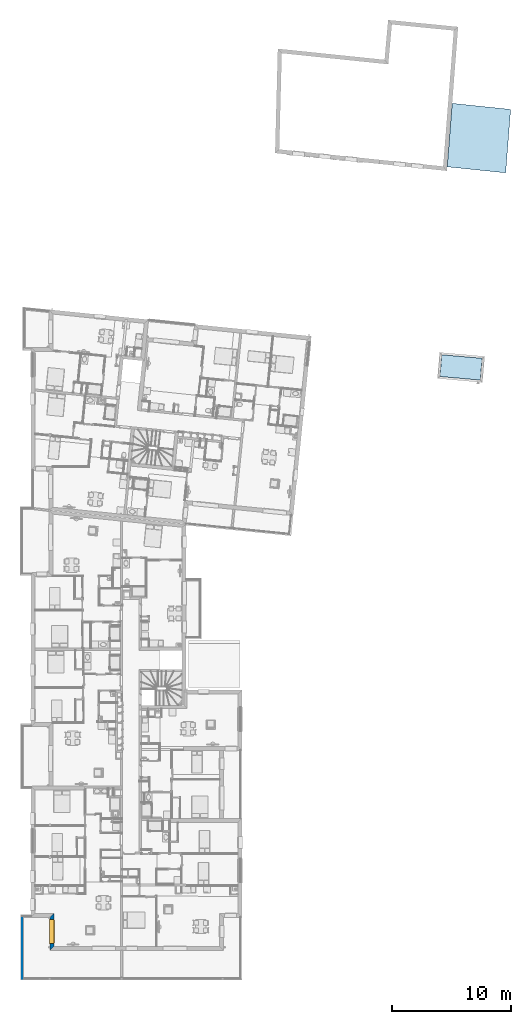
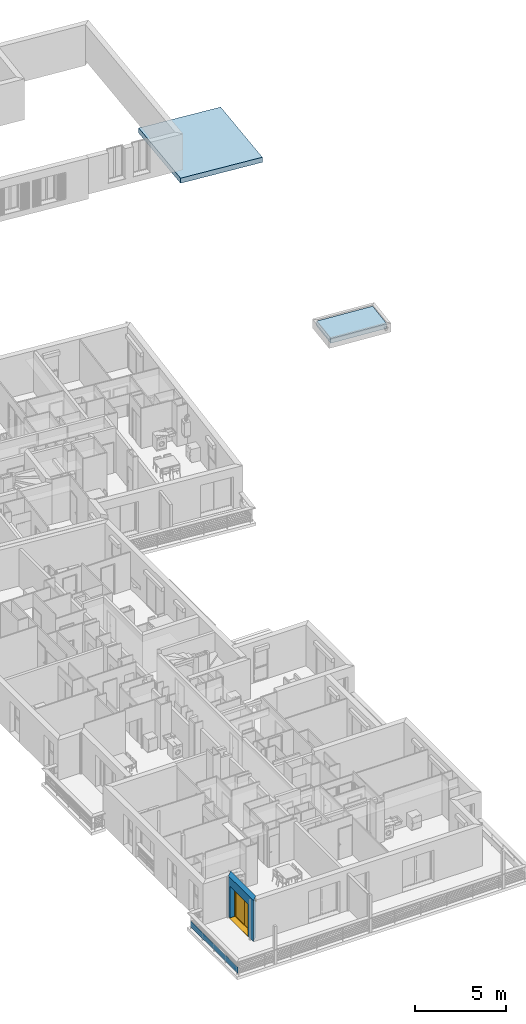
# One storey, part 3 of 164: 2 slabs, 2 walls, 1 window, 1 opening.
"""IFC2X3 building model written with IfcOpenShell, lengths in millimetres."""

from ifc_helpers import new_model, entity, si_unit, converted_unit, derived_unit, money_unit, direction, frame, origin_with_axes, place, context, subcontext, project, spatial, polyline, outline, extrude, open_shell, faceted_brep, surface_model, source, transform, mapped, material, layer, layer_set, layer_usage, type_object, element, fill, save


model = new_model("IFC2X3")

# Units and contexts
model_context = context("Model", 3, precision=0.01, world=origin_with_axes(), true_north=direction((0.0, 1.0)))
body_context = subcontext(model_context, "Body", "Model", "MODEL_VIEW")
ifc_project = project(units=[si_unit("LENGTHUNIT", "METRE", prefix="MILLI"), si_unit("AREAUNIT", "SQUARE_METRE"), si_unit("VOLUMEUNIT", "CUBIC_METRE"), converted_unit("PLANEANGLEUNIT", "DEGREE", entity("IfcPlaneAngleMeasure", 0.0174532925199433), si_unit("PLANEANGLEUNIT", "RADIAN"), dimensions=[0, 0, 0, 0, 0, 0, 0]), money_unit("USD"), converted_unit("TIMEUNIT", "Year", entity("IfcTimeMeasure", 31557600.0), si_unit("TIMEUNIT", "SECOND"), dimensions=[0, 0, 1, 0, 0, 0, 0]), si_unit("MASSUNIT", "GRAM", prefix="KILO"), si_unit("THERMODYNAMICTEMPERATUREUNIT", "DEGREE_CELSIUS"), si_unit("LUMINOUSINTENSITYUNIT", "LUMEN"), si_unit("ENERGYUNIT", "JOULE", prefix="MEGA"), derived_unit("THERMALCONDUCTANCEUNIT", [(si_unit("POWERUNIT", "WATT"), 1), (si_unit("LENGTHUNIT", "METRE"), -1), (si_unit("THERMODYNAMICTEMPERATUREUNIT", "KELVIN"), -1)]), derived_unit("SPECIFICHEATCAPACITYUNIT", [(si_unit("ENERGYUNIT", "JOULE"), 1), (si_unit("MASSUNIT", "GRAM", prefix="KILO"), -1), (si_unit("THERMODYNAMICTEMPERATUREUNIT", "KELVIN"), -1)]), derived_unit("MASSDENSITYUNIT", [(si_unit("MASSUNIT", "GRAM", prefix="KILO"), 1), (si_unit("VOLUMEUNIT", "CUBIC_METRE"), -1)])], contexts=[model_context])

# Site, building, storey
site_placement = place(None, origin_with_axes())
site = spatial("IfcSite", under=ifc_project, at=site_placement, Name="Site", CompositionType="ELEMENT")
building_placement = place(site_placement, origin_with_axes())
building = spatial("IfcBuilding", under=site, at=building_placement, Name="Bâtiment", CompositionType="ELEMENT")
storey_placement = place(building_placement, frame((0.0, 0.0, 5750.0), z_axis=(0.0, 0.0, 1.0), x_axis=(1.0, 0.0, 0.0)))
storey = spatial("IfcBuildingStorey", under=building, at=storey_placement, Name="Etage1", CompositionType="ELEMENT", Elevation=5750.0)

# Slabs
ifc_material_1 = material(Name="100 % 288701002")
ifc_layer_1 = layer(ifc_material_1, 40.0, ventilated="UNKNOWN")
ifc_material_2 = material(Name="AS_EMPTY 288701002")
ifc_layer_2 = layer(ifc_material_2, 100.0, ventilated="UNKNOWN")
ifc_material_3 = material(Name="Parpaing 288701002")
ifc_layer_3 = layer(ifc_material_3, 200.0, ventilated="UNKNOWN")
ifc_layer_set_1 = layer_set([ifc_layer_1, ifc_layer_2, ifc_layer_3], Name="dalle 20+plots")
ifc_layer_usage_1 = layer_usage(ifc_layer_set_1, "AXIS3", "NEGATIVE", 340.0)
slab_type_1 = type_object("IfcSlabType", Name="dalle 20+plots 340", PredefinedType="FLOOR")
slab_1_placement = place(storey_placement, frame((2252006.94202775, -586668.0757943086, -200.0000000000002), z_axis=(0.0, 0.0, 1.0), x_axis=(1.0, 0.0, 0.0)))
element("IfcSlab", 1, at=slab_1_placement, inside=storey, type_object=slab_type_1, material=ifc_layer_usage_1, Name="Dalle-050", PredefinedType="FLOOR", context=body_context, shape_type="SweptSolid", body=[
    extrude(outline(polyline([(0.0, 0.0), (-417.1851767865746, -5334.817780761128), (4498.620771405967, -5844.006273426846), (4915.491701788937, -511.5278434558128), (0.0, 0.0)])), frame((0.0, 0.0, -340.0), z_axis=(0.0, 0.0, 1.0), x_axis=(1.0, 0.0, 0.0)), (0.0, 0.0, 1.0), 340.0),
])
ifc_layer_4 = layer(ifc_material_3, 230.0, ventilated="UNKNOWN")
ifc_material_4 = material(Name="Isolation toiture terrasse 288701002")
ifc_layer_5 = layer(ifc_material_4, 100.0, ventilated="UNKNOWN")
ifc_layer_set_2 = layer_set([ifc_layer_4, ifc_layer_5], Name="dalle 23+ isolant sousface10  0817885410")
ifc_layer_usage_2 = layer_usage(ifc_layer_set_2, "AXIS3", "NEGATIVE", 330.0)
slab_type_2 = type_object("IfcSlabType", Name="dalle 23+ isolant sousface10  0817885410 330", PredefinedType="FLOOR")
slab_2_placement = place(storey_placement, frame((2251138.881755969, -607787.6207350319, -86.40396873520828), z_axis=(0.0, 0.0, 1.0), x_axis=(1.0, 0.0, 0.0)))
element("IfcSlab", 2, at=slab_2_placement, inside=storey, type_object=slab_type_2, material=ifc_layer_usage_2, Name="Dalle-030", PredefinedType="FLOOR", context=body_context, shape_type="SweptSolid", body=[
    extrude(outline(polyline([(0.0, 0.0), (-160.9854818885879, -1830.086737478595), (3228.15602220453, -2128.216092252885), (3389.141504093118, -298.1293547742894), (0.0, 0.0)])), frame((0.0, 0.0, -330.0), z_axis=(0.0, 0.0, 1.0), x_axis=(1.0, 0.0, 0.0)), (0.0, 0.0, 1.0), 330.0),
])

# Wall
ifc_material_5 = material(Name="MANQUANT")
ifc_layer_6 = layer(ifc_material_5, 20.0, ventilated="UNKNOWN")
ifc_layer_set_3 = layer_set([ifc_layer_6], Name="MANQUANT 20")
ifc_layer_usage_3 = layer_usage(ifc_layer_set_3, "AXIS2", "NEGATIVE", 20.0)
wall_type_1 = type_object("IfcWallType", Name="MANQUANT 20", PredefinedType="NOTDEFINED")
wall_1_placement = place(storey_placement, frame((2215882.625413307, -654937.0120138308, 99.99999999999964), z_axis=(0.0, 0.0, 1.0), x_axis=(-1.324341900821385e-06, -0.999999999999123, 0.0)))
element("IfcWallStandardCase", 3, at=wall_1_placement, inside=storey, type_object=wall_type_1, material=ifc_layer_usage_3, Name="Mur-150", context=body_context, shape_type="SweptSolid", body=[
    extrude(outline(polyline([(0.0, 0.0), (5244.511613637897, 0.0), (5224.511587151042, 20.0000000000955), (19.99997351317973, 20.0000000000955), (0.0, 0.0)])), origin_with_axes(), (0.0, 0.0, 1.0), 400.0),
])

# Wall, opening, window
ifc_material_6 = material(Name="Parpaing 312445824")
ifc_layer_7 = layer(ifc_material_6, 180.0, ventilated="UNKNOWN")
ifc_material_7 = material(Name="Isolant styromousse 301821074")
ifc_layer_8 = layer(ifc_material_7, 160.0, ventilated="UNKNOWN")
ifc_layer_set_4 = layer_set([ifc_layer_7, ifc_layer_8], Name="isol int 18+16 0018356637")
ifc_layer_usage_4 = layer_usage(ifc_layer_set_4, "AXIS2", "POSITIVE", 0.0)
wall_type_2 = type_object("IfcWallType", Name="isol int 18+16 0018356637 340", PredefinedType="NOTDEFINED")
wall_2_placement = place(storey_placement, frame((2218234.233338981, -655041.4677782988, 0.0), z_axis=(0.0, 0.0, 1.0), x_axis=(0.0, -1.0, 0.0)))
wall_2 = element("IfcWallStandardCase", 4, at=wall_2_placement, inside=storey, type_object=wall_type_2, material=ifc_layer_usage_4, Name="Mur-143", context=body_context, shape_type="SweptSolid", body=[
    extrude(outline(polyline([(0.0, 0.0), (2776.855298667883, 0.0), (2436.855298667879, 340.0000000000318), (-340.0000000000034, 340.0000000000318), (0.0, 0.0)])), origin_with_axes(), (0.0, 0.0, 1.0), 2750.0),
])
opening_placement = place(wall_2_placement, frame((1191.264102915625, 1.13686837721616e-10, 0.0), z_axis=(0.0, 0.0, 1.0), x_axis=(1.0, 0.0, 0.0)))
opening = element("IfcOpeningElement", 5, at=opening_placement, cuts=wall_2, Name="Fen-207", context=body_context, shape_type="Brep", body=[
    faceted_brep([(-1000.0, 290.0000000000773, 2150.0), (-1000.0, 341.0000000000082, 2150.0), (-1000.0, 341.0000000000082, 0.0), (-1000.0, 290.0000000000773, 0.0), (-1000.0, 280.0000000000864, 2150.0), (-1000.0, 280.0000000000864, 2400.0), (-1000.0, 530.0000000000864, 2400.0), (-1000.0, 530.0000000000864, 2150.0), (1000.0, 341.0000000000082, 2150.0), (1000.0, 341.0000000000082, 0.0), (1000.0, 290.0000000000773, 0.0), (1000.0, -0.9999999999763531, 0.0), (-1000.0, -0.9999999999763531, 0.0), (-1000.0, -0.9999999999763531, 2150.0), (1000.0, 280.0000000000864, 2150.0), (1000.0, 280.0000000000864, 2400.0), (1000.0, 530.0000000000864, 2400.0), (1000.0, 530.0000000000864, 2150.0), (1000.0, 290.0000000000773, 2150.0), (1000.0, -0.9999999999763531, 2150.0)], [[[0, 1, 2, 3]], [[1, 0, 4, 5, 6, 7]], [[1, 8, 9, 2]], [[10, 11, 12, 3, 2, 9]], [[4, 0, 3, 12, 13]], [[4, 14, 15, 5]], [[6, 5, 15, 16]], [[7, 6, 16, 17]], [[8, 1, 7, 17]], [[8, 18, 10, 9]], [[18, 14, 19, 11, 10]], [[13, 12, 11, 19]], [[14, 4, 13, 19]], [[18, 8, 17, 16, 15, 14]]]),
])
window_style = type_object("IfcWindowStyle", Name="Fenêtre châssis double variable 27", ConstructionType="NOTDEFINED", OperationType="DOUBLE_PANEL_VERTICAL", ParameterTakesPrecedence=False, Sizeable=False)
shared_shape = source(origin_with_axes(), body_context, "Body", "SurfaceModel", [
    surface_model("IfcShellBasedSurfaceModel", [(-1000.0, -51.00000000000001, 40.00000000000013), (1000.0, -51.00000000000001, 40.0), (1000.0, -51.00000000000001, 50.0), (-1000.0, -51.00000000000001, 50.00000000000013), (-1030.0, -369.9999999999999, 28.96551724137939), (1030.0, -369.9999999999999, 28.96551724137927), (1030.0, -339.9999999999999, 30.00324289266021), (1000.0, -339.9999999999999, 30.00324289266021), (-1000.0, -339.9999999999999, 30.00324289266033), (-1030.0, -339.9999999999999, 30.00324289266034), (-1030.0, -369.9999999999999, 8.965517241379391), (1030.0, -369.9999999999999, 8.965517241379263), (-1030.0, -359.9999999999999, 18.96551724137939), (1030.0, -359.9999999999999, 18.96551724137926)], [open_shell([[[0, 1, 2, 3]], [[4, 5, 6, 7, 1, 0, 8, 9]], [[10, 11, 5, 4]], [[12, 13, 11, 10]]])]),
    faceted_brep([(1000.0, -60.00000000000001, 2400.0), (1000.0, 190.0, 2400.0), (997.0, 190.0, 2400.0), (997.0, -60.00000000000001, 2400.0), (1000.0, -60.00000000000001, 2150.0), (1000.0, 190.0, 2150.0), (997.0, 190.0, 2150.0), (997.0, -60.00000000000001, 2150.0)], [[[0, 1, 2, 3]], [[0, 4, 5, 1]], [[1, 5, 6, 2]], [[3, 2, 6, 7]], [[4, 0, 3, 7]], [[5, 4, 7, 6]]]),
    faceted_brep([(-997.0000000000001, -59.99999999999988, 2400.0), (-997.0000000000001, 190.0000000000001, 2400.0), (-1000.0, 190.0000000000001, 2400.0), (-1000.0, -59.99999999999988, 2400.0), (-997.0000000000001, -59.99999999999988, 2150.0), (-997.0000000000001, 190.0000000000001, 2150.0), (-1000.0, 190.0000000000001, 2150.0), (-1000.0, -59.99999999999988, 2150.0)], [[[0, 1, 2, 3]], [[0, 4, 5, 1]], [[1, 5, 6, 2]], [[3, 2, 6, 7]], [[4, 0, 3, 7]], [[5, 4, 7, 6]]]),
    faceted_brep([(997.0, -60.0, 2150.0), (997.0, -60.0, 2400.0), (-997.0, -59.99999999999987, 2400.0), (-997.0, -59.99999999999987, 2150.0), (997.0, -56.99999999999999, 2150.0), (997.0, -56.99999999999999, 2397.0), (997.0, 187.0, 2397.0), (997.0, 187.0, 2153.0), (997.0, -37.99999999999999, 2153.0), (997.0, -37.99999999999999, 2150.0), (997.0, 190.0, 2150.0), (997.0, 190.0, 2400.0), (-997.0, 190.0000000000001, 2400.0), (-997.0, 190.0000000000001, 2150.0), (-997.0, -37.99999999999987, 2150.0), (-997.0, -37.99999999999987, 2153.0), (-997.0, 187.0000000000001, 2153.0), (-997.0, 187.0000000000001, 2397.0), (-997.0, -56.99999999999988, 2397.0), (-997.0, -56.99999999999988, 2150.0)], [[[0, 1, 2, 3]], [[0, 4, 5, 6, 7, 8, 9, 10, 11, 1]], [[1, 11, 12, 2]], [[3, 2, 12, 13, 14, 15, 16, 17, 18, 19]], [[4, 0, 3, 19]], [[5, 4, 19, 18]], [[6, 5, 18, 17]], [[7, 6, 17, 16]], [[8, 7, 16, 15]], [[9, 8, 15, 14]], [[10, 9, 14, 13]], [[11, 10, 13, 12]]]),
    faceted_brep([(994.0, -40.37442957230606, 2256.419644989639), (994.0, -35.54711042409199, 2238.403844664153), (994.0, -27.66471820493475, 2221.5), (994.0, -16.9667554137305, 2206.22172576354), (994.0, -3.778274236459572, 2193.033244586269), (994.0, 11.50000000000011, 2182.335281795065), (994.0, 28.40384466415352, 2174.452889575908), (994.0, 46.4196449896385, 2169.625570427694), (994.0, 65.00000000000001, 2168.0), (994.0, 83.58035501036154, 2169.625570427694), (994.0, 101.5961553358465, 2174.452889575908), (994.0, 118.4999999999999, 2182.335281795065), (994.0, 133.7782742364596, 2193.033244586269), (994.0, 146.9667554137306, 2206.22172576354), (994.0, 157.6647182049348, 2221.5), (994.0, 165.5471104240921, 2238.403844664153), (994.0, 170.3744295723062, 2256.419644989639), (994.0, 171.9999999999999, 2275.0), (994.0, 170.3744295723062, 2293.580355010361), (994.0, 165.5471104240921, 2311.596155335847), (994.0, 157.6647182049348, 2328.5), (994.0, 146.9667554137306, 2343.77827423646), (994.0, 133.7782742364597, 2356.96675541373), (994.0, 118.5, 2367.664718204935), (994.0, 101.5961553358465, 2375.547110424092), (994.0, 83.58035501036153, 2380.374429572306), (994.0, 64.99999999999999, 2382.0), (994.0, 46.41964498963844, 2380.374429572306), (994.0, 28.40384466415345, 2375.547110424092), (994.0, 11.5, 2367.664718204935), (994.0, -3.778274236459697, 2356.96675541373), (994.0, -16.96675541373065, 2343.77827423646), (994.0, -27.66471820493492, 2328.5), (994.0, -35.54711042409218, 2311.596155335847), (994.0, -40.37442957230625, 2293.580355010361), (994.0, -41.99999999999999, 2275.0), (-994.0, -40.37442957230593, 2256.419644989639), (-994.0, -35.54711042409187, 2238.403844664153), (-994.0, -27.66471820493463, 2221.5), (-994.0, -16.96675541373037, 2206.22172576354), (-994.0, -3.778274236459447, 2193.033244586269), (-994.0, 11.50000000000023, 2182.335281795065), (-994.0, 28.40384466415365, 2174.452889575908), (-994.0, 46.41964498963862, 2169.625570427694), (-994.0, 65.00000000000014, 2168.0), (-994.0, 83.58035501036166, 2169.625570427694), (-994.0, 101.5961553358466, 2174.452889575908), (-994.0, 118.5000000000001, 2182.335281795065), (-994.0, 133.7782742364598, 2193.033244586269), (-994.0, 146.9667554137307, 2206.22172576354), (-994.0, 157.6647182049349, 2221.5), (-994.0, 165.5471104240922, 2238.403844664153), (-994.0, 170.3744295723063, 2256.419644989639), (-994.0, 172.0, 2275.0), (-994.0, 170.3744295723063, 2293.580355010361), (-994.0, 165.5471104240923, 2311.596155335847), (-994.0, 157.664718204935, 2328.5), (-994.0, 146.9667554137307, 2343.77827423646), (-994.0, 133.7782742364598, 2356.96675541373), (-994.0, 118.5000000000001, 2367.664718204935), (-994.0, 101.5961553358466, 2375.547110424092), (-994.0, 83.58035501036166, 2380.374429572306), (-994.0, 65.00000000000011, 2382.0), (-994.0, 46.41964498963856, 2380.374429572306), (-994.0, 28.40384466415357, 2375.547110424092), (-994.0, 11.50000000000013, 2367.664718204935), (-994.0, -3.778274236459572, 2356.96675541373), (-994.0, -16.96675541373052, 2343.77827423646), (-994.0, -27.6647182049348, 2328.5), (-994.0, -35.54711042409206, 2311.596155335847), (-994.0, -40.37442957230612, 2293.580355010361), (-994.0, -41.99999999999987, 2275.0)], [[[0, 1, 2, 3, 4, 5, 6, 7, 8, 9, 10, 11, 12, 13, 14, 15, 16, 17, 18, 19, 20, 21, 22, 23, 24, 25, 26, 27, 28, 29, 30, 31, 32, 33, 34, 35]], [[1, 0, 36, 37]], [[2, 1, 37, 38]], [[3, 2, 38, 39]], [[4, 3, 39, 40]], [[5, 4, 40, 41]], [[6, 5, 41, 42]], [[7, 6, 42, 43]], [[8, 7, 43, 44]], [[9, 8, 44, 45]], [[10, 9, 45, 46]], [[11, 10, 46, 47]], [[12, 11, 47, 48]], [[13, 12, 48, 49]], [[14, 13, 49, 50]], [[15, 14, 50, 51]], [[16, 15, 51, 52]], [[17, 16, 52, 53]], [[18, 17, 53, 54]], [[19, 18, 54, 55]], [[20, 19, 55, 56]], [[21, 20, 56, 57]], [[22, 21, 57, 58]], [[23, 22, 58, 59]], [[24, 23, 59, 60]], [[25, 24, 60, 61]], [[26, 25, 61, 62]], [[27, 26, 62, 63]], [[28, 27, 63, 64]], [[29, 28, 64, 65]], [[30, 29, 65, 66]], [[31, 30, 66, 67]], [[32, 31, 67, 68]], [[33, 32, 68, 69]], [[34, 33, 69, 70]], [[35, 34, 70, 71]], [[0, 35, 71, 36]], [[36, 71, 70, 69, 68, 67, 66, 65, 64, 63, 62, 61, 60, 59, 58, 57, 56, 55, 54, 53, 52, 51, 50, 49, 48, 47, 46, 45, 44, 43, 42, 41, 40, 39, 38, 37]]]),
    faceted_brep([(-1000.0, -34.99999999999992, 30.0), (-1000.0, -59.99999999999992, 30.0), (-1000.0, -59.99999999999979, 2150.0), (-1000.0, -34.99999999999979, 2150.0), (-975.0, -34.99999999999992, 30.0), (-975.0, -37.99999999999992, 30.0), (-997.0, -37.99999999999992, 30.0), (-997.0, -56.99999999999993, 30.0), (-975.0, -56.99999999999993, 30.0), (-975.0, -59.99999999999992, 30.0), (-975.0, -59.99999999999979, 2150.0), (-975.0, -56.99999999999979, 2150.0), (-997.0, -56.99999999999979, 2150.0), (-997.0, -37.99999999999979, 2150.0), (-975.0, -37.99999999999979, 2150.0), (-975.0, -34.99999999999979, 2150.0)], [[[0, 1, 2, 3]], [[0, 4, 5, 6, 7, 8, 9, 1]], [[1, 9, 10, 2]], [[3, 2, 10, 11, 12, 13, 14, 15]], [[4, 0, 3, 15]], [[5, 4, 15, 14]], [[6, 5, 14, 13]], [[7, 6, 13, 12]], [[8, 7, 12, 11]], [[9, 8, 11, 10]]]),
    faceted_brep([(1000.0, -34.99999999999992, 30.0), (1000.0, -34.99999999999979, 2150.0), (1000.0, -59.99999999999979, 2150.0), (1000.0, -59.99999999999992, 30.0), (975.0, -34.99999999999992, 30.0), (975.0, -34.99999999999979, 2150.0), (975.0, -37.99999999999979, 2150.0), (997.0, -37.99999999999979, 2150.0), (997.0, -56.99999999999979, 2150.0), (975.0, -56.99999999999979, 2150.0), (975.0, -59.99999999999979, 2150.0), (975.0, -59.99999999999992, 30.0), (975.0, -56.99999999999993, 30.0), (997.0, -56.99999999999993, 30.0), (997.0, -37.99999999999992, 30.0), (975.0, -37.99999999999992, 30.0)], [[[0, 1, 2, 3]], [[4, 5, 1, 0]], [[1, 5, 6, 7, 8, 9, 10, 2]], [[3, 2, 10, 11]], [[0, 3, 11, 12, 13, 14, 15, 4]], [[15, 6, 5, 4]], [[14, 7, 6, 15]], [[13, 8, 7, 14]], [[12, 9, 8, 13]], [[11, 10, 9, 12]]]),
    faceted_brep([(-997.0, -46.66666666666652, 2275.0), (997.0, -46.66666666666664, 2275.0), (997.0, -46.66666666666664, 2266.666666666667), (-997.0, -46.66666666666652, 2266.666666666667), (-997.0, -51.66666666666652, 2275.0), (997.0, -51.66666666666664, 2275.0), (997.0, -51.66666666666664, 2266.666666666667), (997.0, -49.99999999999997, 2250.0), (997.0, -44.99999999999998, 2250.0), (-997.0, -44.99999999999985, 2250.0), (-997.0, -49.99999999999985, 2250.0), (-997.0, -51.66666666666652, 2266.666666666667)], [[[0, 1, 2, 3]], [[1, 0, 4, 5]], [[1, 5, 6, 7, 8, 2]], [[2, 8, 9, 3]], [[4, 0, 3, 9, 10, 11]], [[6, 5, 4, 11]], [[7, 6, 11, 10]], [[8, 7, 10, 9]]]),
    faceted_brep([(997.0, -44.99999999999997, 2250.0), (997.0, -46.66666666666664, 2233.333333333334), (-997.0, -46.66666666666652, 2233.333333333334), (-997.0, -44.99999999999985, 2250.0), (997.0, -49.99999999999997, 2250.0), (997.0, -51.66666666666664, 2233.333333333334), (997.0, -51.66666666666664, 2216.666666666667), (997.0, -49.99999999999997, 2200.0), (997.0, -44.99999999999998, 2200.0), (997.0, -46.66666666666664, 2216.666666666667), (-997.0, -46.66666666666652, 2216.666666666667), (-997.0, -44.99999999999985, 2200.0), (-997.0, -49.99999999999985, 2200.0), (-997.0, -51.66666666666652, 2216.666666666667), (-997.0, -51.66666666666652, 2233.333333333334), (-997.0, -49.99999999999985, 2250.0)], [[[0, 1, 2, 3]], [[0, 4, 5, 6, 7, 8, 9, 1]], [[1, 9, 10, 2]], [[3, 2, 10, 11, 12, 13, 14, 15]], [[4, 0, 3, 15]], [[5, 4, 15, 14]], [[6, 5, 14, 13]], [[7, 6, 13, 12]], [[8, 7, 12, 11]], [[9, 8, 11, 10]]]),
    faceted_brep([(997.0, -44.99999999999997, 2200.0), (997.0, -46.66666666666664, 2183.333333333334), (-997.0, -46.66666666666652, 2183.333333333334), (-997.0, -44.99999999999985, 2200.0), (997.0, -49.99999999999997, 2200.0), (997.0, -51.66666666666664, 2183.333333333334), (997.0, -51.66666666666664, 2166.666666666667), (997.0, -49.99999999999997, 2150.000000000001), (997.0, -44.99999999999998, 2150.000000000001), (997.0, -46.66666666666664, 2166.666666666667), (-997.0, -46.66666666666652, 2166.666666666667), (-997.0, -44.99999999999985, 2150.000000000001), (-997.0, -49.99999999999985, 2150.000000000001), (-997.0, -51.66666666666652, 2166.666666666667), (-997.0, -51.66666666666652, 2183.333333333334), (-997.0, -49.99999999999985, 2200.0)], [[[0, 1, 2, 3]], [[0, 4, 5, 6, 7, 8, 9, 1]], [[1, 9, 10, 2]], [[3, 2, 10, 11, 12, 13, 14, 15]], [[4, 0, 3, 15]], [[5, 4, 15, 14]], [[6, 5, 14, 13]], [[7, 6, 13, 12]], [[8, 7, 12, 11]], [[9, 8, 11, 10]]]),
    faceted_brep([(975.0, 0.0, 2100.0), (975.0, -25.00000000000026, 2100.0), (950.0, -25.00000000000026, 2100.0), (950.0, -50.00000000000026, 2100.0), (1000.0, -50.00000000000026, 2100.0), (1000.0, 0.0, 2100.0), (975.0, 0.0, 50.00000000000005), (975.0, -25.00000000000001, 50.00000000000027), (950.0, -25.00000000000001, 50.00000000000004), (950.0, -50.00000000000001, 50.00000000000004), (1000.0, -50.00000000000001, 50.00000000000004), (1000.0, 0.0, 50.00000000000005)], [[[0, 1, 2, 3, 4, 5]], [[1, 0, 6, 7]], [[8, 2, 1, 7]], [[2, 8, 9, 3]], [[4, 3, 9, 10]], [[5, 4, 10, 11]], [[6, 0, 5, 11]], [[7, 6, 11, 10, 9, 8]]]),
    faceted_brep([(-950.0, -25.00000000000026, 2100.0), (-975.0, -25.00000000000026, 2100.0), (-975.0, 0.0, 2100.0), (-1000.0, 0.0, 2100.0), (-1000.0, -50.00000000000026, 2100.0), (-950.0, -50.00000000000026, 2100.0), (-950.0, -25.00000000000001, 50.00000000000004), (-975.0, -25.00000000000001, 50.00000000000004), (-975.0, 0.0, 50.00000000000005), (-1000.0, 0.0, 50.00000000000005), (-1000.0, -50.00000000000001, 50.00000000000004), (-950.0, -50.00000000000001, 50.00000000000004)], [[[0, 1, 2, 3, 4, 5]], [[1, 0, 6, 7]], [[8, 2, 1, 7]], [[2, 8, 9, 3]], [[9, 10, 4, 3]], [[10, 11, 5, 4]], [[6, 0, 5, 11]], [[7, 6, 11, 10, 9, 8]]]),
    faceted_brep([(-950.0, -25.00000000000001, 50.00000000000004), (-975.0, -25.00000000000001, 50.00000000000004), (-975.0, 0.0, 50.00000000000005), (-1000.0, 0.0, 50.00000000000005), (-1000.0, -50.00000000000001, 50.00000000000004), (-950.0, -50.00000000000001, 50.00000000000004), (950.0, -25.00000000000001, 50.00000000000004), (975.0, -25.00000000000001, 50.00000000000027), (975.0, -25.0, 24.99999999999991), (-975.0, -25.0, 24.99999999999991), (-975.0, 0.0, 24.99999999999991), (975.0, 0.0, 24.99999999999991), (975.0, 0.0, 50.00000000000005), (1000.0, 0.0, 50.00000000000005), (1000.0, 0.0, 0.0), (-1000.0, 0.0, 0.0), (-1000.0, -50.0, 0.0), (1000.0, -50.00000000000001, 50.00000000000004), (950.0, -50.00000000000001, 50.00000000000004), (1000.0, -50.0, 0.0)], [[[0, 1, 2, 3, 4, 5]], [[1, 0, 6, 7, 8, 9]], [[10, 2, 1, 9]], [[11, 12, 13, 14, 15, 3, 2, 10]], [[15, 16, 4, 3]], [[17, 18, 5, 4, 16, 19]], [[6, 0, 5, 18]], [[7, 6, 18, 17, 13, 12]], [[7, 12, 11, 8]], [[11, 10, 9, 8]], [[13, 17, 19, 14]], [[14, 19, 16, 15]]]),
    faceted_brep([(975.0, 0.0, 2100.0), (975.0, 0.0, 2125.0), (-975.0, 0.0, 2125.0), (-975.0, 0.0, 2100.0), (-1000.0, 0.0, 2100.0), (-1000.0, 0.0, 2150.0), (1000.0, 0.0, 2150.0), (1000.0, 0.0, 2100.0), (975.0, -25.00000000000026, 2100.0), (975.0, -25.00000000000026, 2125.0), (-975.0, -25.00000000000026, 2125.0), (-975.0, -25.00000000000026, 2100.0), (-950.0, -25.00000000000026, 2100.0), (-950.0, -50.00000000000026, 2100.0), (-1000.0, -50.00000000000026, 2100.0), (-1000.0, -50.00000000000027, 2150.0), (1000.0, -50.00000000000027, 2150.0), (1000.0, -50.00000000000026, 2100.0), (950.0, -50.00000000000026, 2100.0), (950.0, -25.00000000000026, 2100.0)], [[[0, 1, 2, 3, 4, 5, 6, 7]], [[1, 0, 8, 9]], [[2, 1, 9, 10]], [[3, 2, 10, 11]], [[11, 12, 13, 14, 4, 3]], [[4, 14, 15, 5]], [[5, 15, 16, 6]], [[6, 16, 17, 7]], [[8, 0, 7, 17, 18, 19]], [[12, 11, 10, 9, 8, 19]], [[12, 19, 18, 13]], [[14, 13, 18, 17, 16, 15]]]),
    faceted_brep([(925.0, -25.00000000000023, 2075.0), (975.0, -25.00000000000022, 2075.0), (975.0, 24.99999999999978, 2075.0), (925.0, 24.99999999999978, 2075.0), (925.0, -24.99999999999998, 75.00000000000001), (975.0, -24.99999999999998, 75.00000000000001), (975.0, 25.00000000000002, 75.00000000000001), (925.0, 25.00000000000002, 75.00000000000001)], [[[0, 1, 2, 3]], [[0, 4, 5, 1]], [[1, 5, 6, 2]], [[3, 2, 6, 7]], [[4, 0, 3, 7]], [[5, 4, 7, 6]]]),
    faceted_brep([(49.99999999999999, -25.00000000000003, 75.00000000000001), (0.0, -25.00000000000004, 75.00000000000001), (0.0, 24.99999999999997, 75.00000000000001), (49.99999999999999, 24.99999999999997, 75.00000000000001), (49.99999999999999, -25.00000000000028, 2075.0), (0.0, -25.00000000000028, 2075.0), (0.0, 24.99999999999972, 2075.0), (49.99999999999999, 24.99999999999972, 2075.0)], [[[0, 1, 2, 3]], [[0, 4, 5, 1]], [[1, 5, 6, 2]], [[3, 2, 6, 7]], [[4, 0, 3, 7]], [[5, 4, 7, 6]]]),
    faceted_brep([(0.0, -25.00000000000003, 25.0), (0.0, -25.00000000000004, 75.00000000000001), (0.0, 24.99999999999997, 75.00000000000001), (0.0, 24.99999999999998, 25.00000000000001), (975.0, -24.99999999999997, 25.0), (975.0, -24.99999999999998, 75.00000000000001), (925.0, -24.99999999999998, 75.00000000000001), (49.99999999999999, -25.00000000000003, 75.00000000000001), (49.99999999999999, 24.99999999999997, 75.00000000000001), (925.0, 25.00000000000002, 75.00000000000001), (975.0, 25.00000000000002, 75.00000000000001), (975.0, 25.00000000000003, 25.00000000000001)], [[[0, 1, 2, 3]], [[0, 4, 5, 6, 7, 1]], [[1, 7, 8, 2]], [[3, 2, 8, 9, 10, 11]], [[4, 0, 3, 11]], [[5, 4, 11, 10]], [[6, 5, 10, 9]], [[7, 6, 9, 8]]]),
    faceted_brep([(975.0, -25.00000000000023, 2125.0), (975.0, -25.00000000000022, 2075.0), (975.0, 24.99999999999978, 2075.0), (975.0, 24.99999999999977, 2125.0), (0.0, -25.00000000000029, 2125.0), (0.0, -25.00000000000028, 2075.0), (49.99999999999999, -25.00000000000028, 2075.0), (925.0, -25.00000000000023, 2075.0), (925.0, 24.99999999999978, 2075.0), (49.99999999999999, 24.99999999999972, 2075.0), (0.0, 24.99999999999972, 2075.0), (0.0, 24.99999999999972, 2125.0)], [[[0, 1, 2, 3]], [[0, 4, 5, 6, 7, 1]], [[1, 7, 8, 2]], [[3, 2, 8, 9, 10, 11]], [[4, 0, 3, 11]], [[5, 4, 11, 10]], [[6, 5, 10, 9]], [[7, 6, 9, 8]]]),
    surface_model("IfcShellBasedSurfaceModel", [(925.0, -10.00000000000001, 75.00000000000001), (925.0, -10.00000000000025, 2075.0), (49.99999999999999, -10.00000000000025, 2075.0), (49.99999999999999, -10.00000000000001, 75.00000000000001)], [open_shell([[[0, 1, 2, 3]]])]),
    surface_model("IfcShellBasedSurfaceModel", [(925.0, 9.999999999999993, 75.00000000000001), (49.99999999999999, 9.999999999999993, 75.00000000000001), (49.99999999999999, 9.99999999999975, 2075.0), (925.0, 9.99999999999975, 2075.0)], [open_shell([[[0, 1, 2, 3]]])]),
    faceted_brep([(-49.99999999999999, -25.00000000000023, 2075.0), (0.0, -25.00000000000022, 2075.0), (0.0, 24.99999999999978, 2075.0), (-49.99999999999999, 24.99999999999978, 2075.0), (-49.99999999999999, -24.99999999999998, 75.00000000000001), (0.0, -24.99999999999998, 75.00000000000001), (0.0, 25.00000000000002, 75.00000000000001), (-49.99999999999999, 25.00000000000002, 75.00000000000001)], [[[0, 1, 2, 3]], [[0, 4, 5, 1]], [[1, 5, 6, 2]], [[3, 2, 6, 7]], [[4, 0, 3, 7]], [[5, 4, 7, 6]]]),
    faceted_brep([(-925.0, -25.00000000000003, 75.00000000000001), (-975.0, -25.00000000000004, 75.00000000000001), (-975.0, 24.99999999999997, 75.00000000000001), (-925.0, 24.99999999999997, 75.00000000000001), (-925.0, -25.00000000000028, 2075.0), (-975.0, -25.00000000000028, 2075.0), (-975.0, 24.99999999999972, 2075.0), (-925.0, 24.99999999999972, 2075.0)], [[[0, 1, 2, 3]], [[0, 4, 5, 1]], [[1, 5, 6, 2]], [[3, 2, 6, 7]], [[4, 0, 3, 7]], [[5, 4, 7, 6]]]),
    faceted_brep([(-975.0, -25.00000000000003, 25.0), (-975.0, -25.00000000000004, 75.00000000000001), (-975.0, 24.99999999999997, 75.00000000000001), (-975.0, 24.99999999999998, 25.00000000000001), (0.0, -24.99999999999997, 25.0), (0.0, -24.99999999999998, 75.00000000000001), (-49.99999999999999, -24.99999999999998, 75.00000000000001), (-925.0, -25.00000000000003, 75.00000000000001), (-925.0, 24.99999999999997, 75.00000000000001), (-49.99999999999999, 25.00000000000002, 75.00000000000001), (0.0, 25.00000000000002, 75.00000000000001), (0.0, 25.00000000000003, 25.00000000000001)], [[[0, 1, 2, 3]], [[0, 4, 5, 6, 7, 1]], [[1, 7, 8, 2]], [[3, 2, 8, 9, 10, 11]], [[4, 0, 3, 11]], [[5, 4, 11, 10]], [[6, 5, 10, 9]], [[7, 6, 9, 8]]]),
    faceted_brep([(0.0, -25.00000000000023, 2125.0), (0.0, -25.00000000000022, 2075.0), (0.0, 24.99999999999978, 2075.0), (0.0, 24.99999999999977, 2125.0), (-975.0, -25.00000000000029, 2125.0), (-975.0, -25.00000000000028, 2075.0), (-925.0, -25.00000000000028, 2075.0), (-49.99999999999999, -25.00000000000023, 2075.0), (-49.99999999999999, 24.99999999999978, 2075.0), (-925.0, 24.99999999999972, 2075.0), (-975.0, 24.99999999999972, 2075.0), (-975.0, 24.99999999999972, 2125.0)], [[[0, 1, 2, 3]], [[0, 4, 5, 6, 7, 1]], [[1, 7, 8, 2]], [[3, 2, 8, 9, 10, 11]], [[4, 0, 3, 11]], [[5, 4, 11, 10]], [[6, 5, 10, 9]], [[7, 6, 9, 8]]]),
    surface_model("IfcShellBasedSurfaceModel", [(-49.99999999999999, -10.00000000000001, 75.00000000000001), (-49.99999999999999, -10.00000000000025, 2075.0), (-925.0, -10.00000000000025, 2075.0), (-925.0, -10.00000000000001, 75.00000000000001)], [open_shell([[[0, 1, 2, 3]]])]),
    surface_model("IfcShellBasedSurfaceModel", [(-49.99999999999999, 9.999999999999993, 75.00000000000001), (-925.0, 9.999999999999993, 75.00000000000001), (-925.0, 9.99999999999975, 2075.0), (-49.99999999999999, 9.99999999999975, 2075.0)], [open_shell([[[0, 1, 2, 3]]])]),
])
window_placement = place(opening_placement, frame((-1000.0, 1.13686837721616e-10, 0.0), z_axis=(0.0, 0.0, 1.0), x_axis=(1.0, 0.0, 0.0)))
window = element("IfcWindow", 6, at=window_placement, inside=storey, type_object=window_style, Name="Fen-207", OverallHeight=2150.0, OverallWidth=2000.0, context=body_context, shape_type="MappedRepresentation", body=[
    mapped(shared_shape, transform((1000.0, 340.0000000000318, 0.0))),
])
fill(opening, window)

save(model, "model.ifc")
